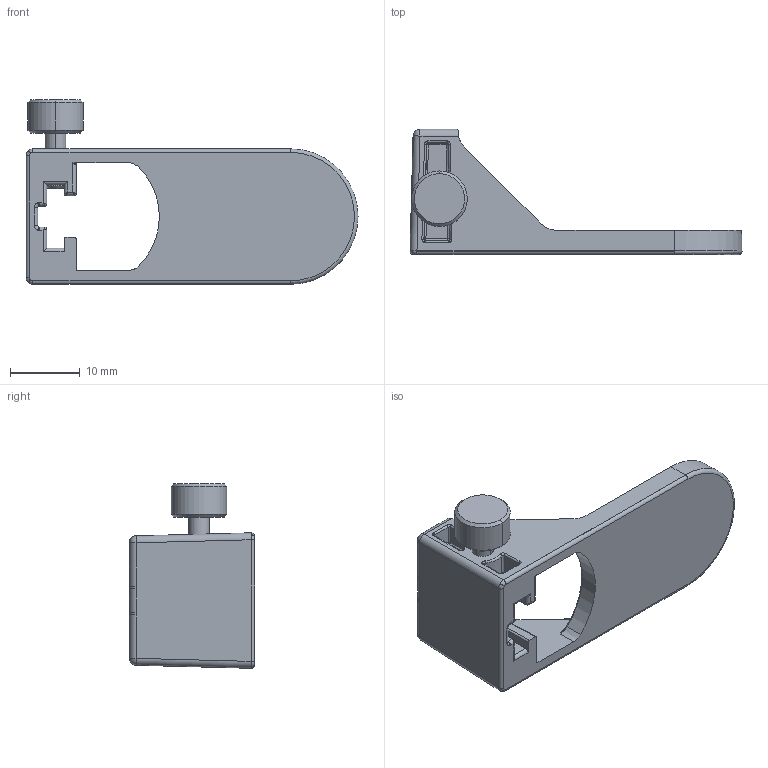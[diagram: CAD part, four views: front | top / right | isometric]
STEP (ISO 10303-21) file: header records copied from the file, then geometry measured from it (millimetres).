
FILE_DESCRIPTION (( 'STEP AP203' ), '1' );
FILE_NAME ('00030535 - LIMITER.step', '2013-04-05T16:25:00', ( '' ), ( '' ), 'SwSTEP 2.0', 'SolidWorks 2012', '' );
FILE_SCHEMA (( 'CONFIG_CONTROL_DESIGN' ));
Length unit declared in the file: millimetre
Products named in the file (1): 00030535 - LIMITER
Bounding box: 47.72 x 18 x 26.54 mm (x, y, z)
Surface area: 3683.3 mm2 (no closed solid volume)
Topology: 0 solids, 2 shells, 279 faces, 676 edges, 384 vertices
Faces by surface type: cylinder 110, bspline 68, plane 54, sphere 28, cone 13, torus 6
Entity records: 8921 total; most frequent: CARTESIAN_POINT 3144, ORIENTED_EDGE 1281, DIRECTION 1098, EDGE_CURVE 659, AXIS2_PLACEMENT_3D 424, VERTEX_POINT 384, EDGE_LOOP 292, FACE_OUTER_BOUND 279
